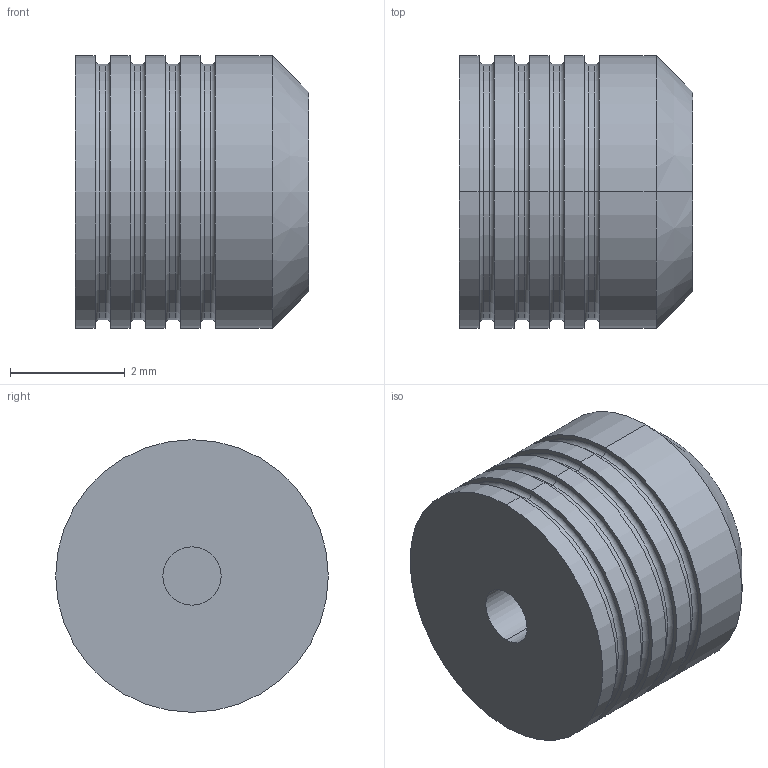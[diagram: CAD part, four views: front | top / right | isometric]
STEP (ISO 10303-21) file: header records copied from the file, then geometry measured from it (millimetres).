
FILE_DESCRIPTION (( 'STEP AP214' ), '1' );
FILE_NAME ('PLGA1870 _ _ 0A.STEP', '2020-02-19T15:30:19', ( 'tlc' ), ( 'Microsoft' ), 'SwSTEP 2.0', 'SolidWorks 2019', '' );
FILE_SCHEMA (( 'AUTOMOTIVE_DESIGN' ));
Length unit declared in the file: inch
Products named in the file (1): PLGA1870 _ _ 0A
Bounding box: 4.06 x 4.75 x 4.75 mm (x, y, z)
Volume: 64.8 mm3; surface area: 112.2 mm2
Topology: 1 solids, 1 shells, 49 faces, 96 edges, 58 vertices
Faces by surface type: cylinder 20, torus 16, plane 11, cone 2
Entity records: 1320 total; most frequent: DIRECTION 270, CARTESIAN_POINT 204, ORIENTED_EDGE 192, AXIS2_PLACEMENT_3D 124, EDGE_CURVE 96, CIRCLE 74, EDGE_LOOP 58, VERTEX_POINT 58
